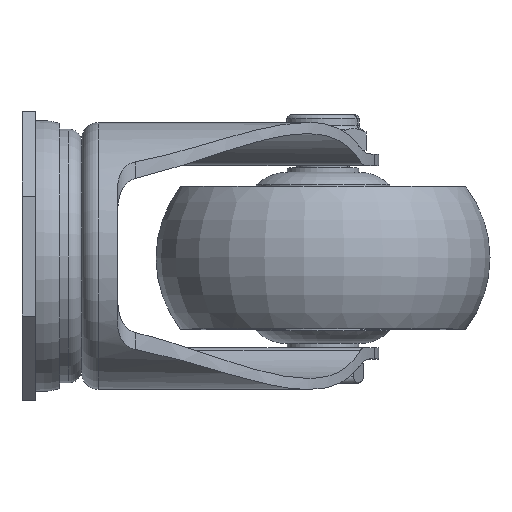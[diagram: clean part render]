
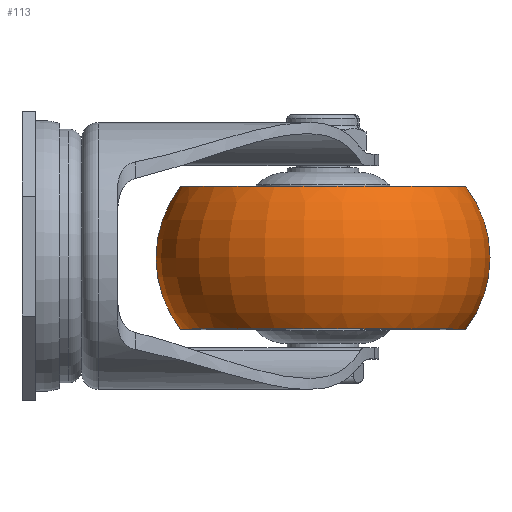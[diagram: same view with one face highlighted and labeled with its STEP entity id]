
A CAD part, left-side view. The second image highlights one B-rep face of the part: STEP entity #113.
In plain terms, the highlighted toroidal (fillet/blend) face has major radius 11.477 mm and minor radius 26.023 mm.
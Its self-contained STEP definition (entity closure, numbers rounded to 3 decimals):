
#104 = EDGE_CURVE ( 'NONE', #6884, #6883, #7850, .T. ) ;
#113 = ADVANCED_FACE ( 'NONE', ( #7814 ), #7812, .T. ) ;
#114 = EDGE_LOOP ( 'NONE', ( #115, #116, #117, #118 ) ) ;
#115 = ORIENTED_EDGE ( 'NONE', *, *, #6888, .F. ) ;
#116 = ORIENTED_EDGE ( 'NONE', *, *, #104, .T. ) ;
#117 = ORIENTED_EDGE ( 'NONE', *, *, #6648, .T. ) ;
#118 = ORIENTED_EDGE ( 'NONE', *, *, #119, .F. ) ;
#119 = EDGE_CURVE ( 'NONE', #6761, #6762, #7810, .T. ) ;
#6648 = EDGE_CURVE ( 'NONE', #6883, #6762, #12508, .T. ) ;
#6761 = VERTEX_POINT ( 'NONE', #12785 ) ;
#6762 = VERTEX_POINT ( 'NONE', #12783 ) ;
#6883 = VERTEX_POINT ( 'NONE', #13094 ) ;
#6884 = VERTEX_POINT ( 'NONE', #13081 ) ;
#6888 = EDGE_CURVE ( 'NONE', #6884, #6761, #13078, .T. ) ;
#7798 = DIRECTION ( 'NONE',  ( 0., 0., -1. ) ) ;
#7800 = DIRECTION ( 'NONE',  ( 0., -1., 0. ) ) ;
#7802 = CARTESIAN_POINT ( 'NONE',  ( 0., -16., 0. ) ) ;
#7803 = AXIS2_PLACEMENT_3D ( 'NONE', #7802, #7800, #7798 ) ;
#7807 = DIRECTION ( 'NONE',  ( 0., 0., -1. ) ) ;
#7808 = DIRECTION ( 'NONE',  ( 0., -1., 0. ) ) ;
#7809 = AXIS2_PLACEMENT_3D ( 'NONE', #7820, #7808, #7807 ) ;
#7810 = CIRCLE ( 'NONE', #7803, 32. ) ;
#7812 = TOROIDAL_SURFACE ( 'NONE', #7809, 11.477, 26.023 ) ;
#7814 = FACE_OUTER_BOUND ( 'NONE', #114, .T. ) ;
#7820 = CARTESIAN_POINT ( 'NONE',  ( 0., 0., 0. ) ) ;
#7844 = DIRECTION ( 'NONE',  ( 0., 0., -1. ) ) ;
#7846 = DIRECTION ( 'NONE',  ( 0., -1., 0. ) ) ;
#7848 = AXIS2_PLACEMENT_3D ( 'NONE', #7862, #7846, #7844 ) ;
#7850 = CIRCLE ( 'NONE', #7848, 32. ) ;
#7862 = CARTESIAN_POINT ( 'NONE',  ( 0., 16., 0. ) ) ;
#12508 = CIRCLE ( 'NONE', #12638, 26.023 ) ;
#12516 = CARTESIAN_POINT ( 'NONE',  ( 0., 0., -11.477 ) ) ;
#12635 = DIRECTION ( 'NONE',  ( 0., 0., 1. ) ) ;
#12636 = DIRECTION ( 'NONE',  ( -1., 0., 0. ) ) ;
#12638 = AXIS2_PLACEMENT_3D ( 'NONE', #12516, #12636, #12635 ) ;
#12783 = CARTESIAN_POINT ( 'NONE',  ( 0., -16., -32. ) ) ;
#12785 = CARTESIAN_POINT ( 'NONE',  ( 0., -16., 32. ) ) ;
#13072 = DIRECTION ( 'NONE',  ( 0., 0., -1. ) ) ;
#13075 = DIRECTION ( 'NONE',  ( 1., 0., 0. ) ) ;
#13076 = CARTESIAN_POINT ( 'NONE',  ( 0., 0., 11.477 ) ) ;
#13077 = AXIS2_PLACEMENT_3D ( 'NONE', #13076, #13075, #13072 ) ;
#13078 = CIRCLE ( 'NONE', #13077, 26.023 ) ;
#13081 = CARTESIAN_POINT ( 'NONE',  ( 0., 16., 32. ) ) ;
#13094 = CARTESIAN_POINT ( 'NONE',  ( 0., 16., -32. ) ) ;
